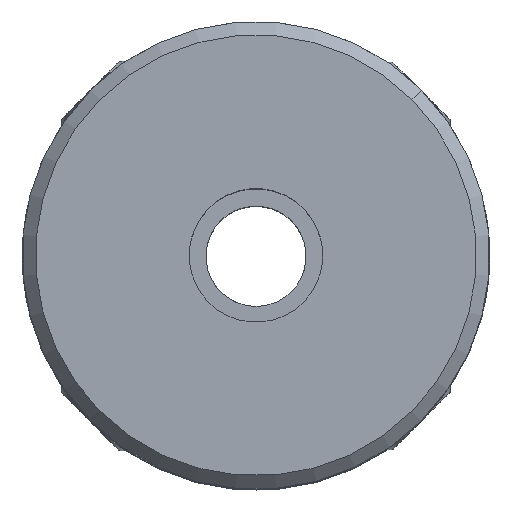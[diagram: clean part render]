
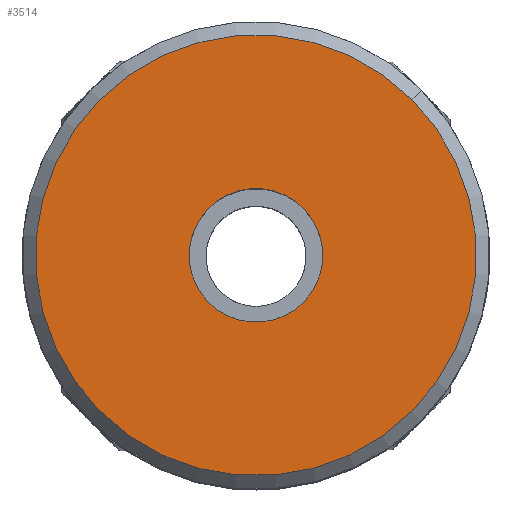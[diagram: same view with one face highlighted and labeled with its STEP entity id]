
A CAD part, top view. The second image highlights one B-rep face of the part: STEP entity #3514.
In plain terms, the highlighted planar face has unit normal (0, 0, 1).
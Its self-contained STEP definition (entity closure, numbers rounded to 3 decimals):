
#11 = VERTEX_POINT ( 'NONE', #8479 ) ;
#340 = CARTESIAN_POINT ( 'NONE',  ( -4.667, -4.667, 11. ) ) ;
#561 = AXIS2_PLACEMENT_3D ( 'NONE', #8824, #4650, #6325 ) ;
#871 = VERTEX_POINT ( 'NONE', #9516 ) ;
#1070 = DIRECTION ( 'NONE',  ( 0., 0., -1. ) ) ;
#1130 = PLANE ( 'NONE',  #7547 ) ;
#1795 = EDGE_LOOP ( 'NONE', ( #8918, #4949 ) ) ;
#2544 = CARTESIAN_POINT ( 'NONE',  ( 1.414, 1.414, 11. ) ) ;
#2615 = VERTEX_POINT ( 'NONE', #2544 ) ;
#2777 = CIRCLE ( 'NONE', #561, 6.6 ) ;
#2837 = EDGE_CURVE ( 'NONE', #8597, #11, #2777, .T. ) ;
#3286 = ORIENTED_EDGE ( 'NONE', *, *, #4021, .T. ) ;
#3514 = ADVANCED_FACE ( 'NONE', ( #7956, #10096 ), #1130, .F. ) ;
#3916 = DIRECTION ( 'NONE',  ( -0.707, -0.707, 0. ) ) ;
#4014 = AXIS2_PLACEMENT_3D ( 'NONE', #7383, #9894, #9957 ) ;
#4021 = EDGE_CURVE ( 'NONE', #2615, #871, #6775, .T. ) ;
#4650 = DIRECTION ( 'NONE',  ( 0., 0., 1. ) ) ;
#4949 = ORIENTED_EDGE ( 'NONE', *, *, #7731, .T. ) ;
#5197 = CARTESIAN_POINT ( 'NONE',  ( 0., 0., 11. ) ) ;
#5805 = AXIS2_PLACEMENT_3D ( 'NONE', #9871, #6443, #8927 ) ;
#6137 = EDGE_CURVE ( 'NONE', #871, #2615, #10686, .T. ) ;
#6325 = DIRECTION ( 'NONE',  ( -0.707, -0.707, 0. ) ) ;
#6443 = DIRECTION ( 'NONE',  ( 0., 0., -1. ) ) ;
#6775 = CIRCLE ( 'NONE', #5805, 2. ) ;
#6976 = DIRECTION ( 'NONE',  ( -0.707, -0.707, 0. ) ) ;
#7228 = CARTESIAN_POINT ( 'NONE',  ( 0., 0., 11. ) ) ;
#7383 = CARTESIAN_POINT ( 'NONE',  ( 0., 0., 11. ) ) ;
#7547 = AXIS2_PLACEMENT_3D ( 'NONE', #5197, #1070, #6976 ) ;
#7731 = EDGE_CURVE ( 'NONE', #11, #8597, #8806, .T. ) ;
#7956 = FACE_OUTER_BOUND ( 'NONE', #1795, .T. ) ;
#8450 = AXIS2_PLACEMENT_3D ( 'NONE', #7228, #8933, #3916 ) ;
#8479 = CARTESIAN_POINT ( 'NONE',  ( 4.667, 4.667, 11. ) ) ;
#8597 = VERTEX_POINT ( 'NONE', #340 ) ;
#8806 = CIRCLE ( 'NONE', #8450, 6.6 ) ;
#8824 = CARTESIAN_POINT ( 'NONE',  ( 0., 0., 11. ) ) ;
#8918 = ORIENTED_EDGE ( 'NONE', *, *, #2837, .T. ) ;
#8927 = DIRECTION ( 'NONE',  ( -0.707, -0.707, 0. ) ) ;
#8933 = DIRECTION ( 'NONE',  ( 0., 0., 1. ) ) ;
#9391 = EDGE_LOOP ( 'NONE', ( #9408, #3286 ) ) ;
#9408 = ORIENTED_EDGE ( 'NONE', *, *, #6137, .T. ) ;
#9516 = CARTESIAN_POINT ( 'NONE',  ( -1.414, -1.414, 11. ) ) ;
#9871 = CARTESIAN_POINT ( 'NONE',  ( 0., 0., 11. ) ) ;
#9894 = DIRECTION ( 'NONE',  ( 0., 0., -1. ) ) ;
#9957 = DIRECTION ( 'NONE',  ( -0.707, -0.707, 0. ) ) ;
#10096 = FACE_BOUND ( 'NONE', #9391, .T. ) ;
#10686 = CIRCLE ( 'NONE', #4014, 2. ) ;
